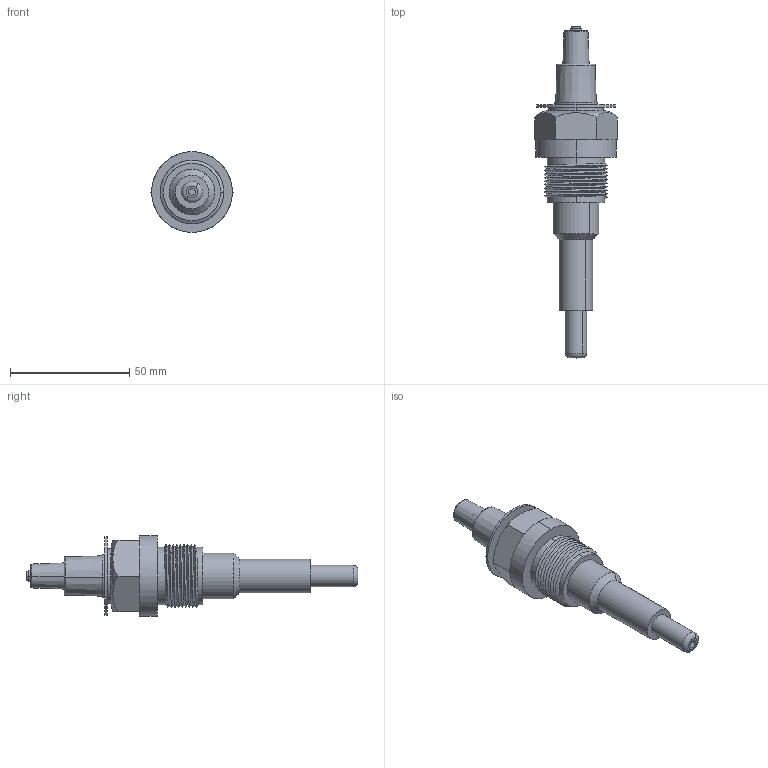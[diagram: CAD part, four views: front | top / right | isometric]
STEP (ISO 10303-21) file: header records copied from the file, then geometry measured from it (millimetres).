
FILE_DESCRIPTION (( 'STEP AP214' ), '1' );
FILE_NAME ('3D 斁麧錪 麵.2.STEP', '2017-09-21T06:48:26', ( '' ), ( '' ), 'SwSTEP 2.0', 'SolidWorks 2011', '' );
FILE_SCHEMA (( 'AUTOMOTIVE_DESIGN' ));
Length unit declared in the file: millimetre
Products named in the file (7): 懾譈鴀_懤瀖麵.2_00; Èçîëÿòîð âåðõíèé_00; 扻錝僝樏_麵.2_00; 3D 斁麧錪 麵.2; Èçîëÿòîð íèæíèé_00; plain washer 6903 type ab_din_DIN 6903-A4; hex thin nut chamfered gradeab_din_Hexagon Thin Nut ISO 4035 - M4 - N
Assembly tree (9 placements, depth 2):
  3D 斁麧錪 麵.2
    懾譈鴀_懤瀖麵.2_00
    Èçîëÿòîð íèæíèé_00
    Èçîëÿòîð âåðõíèé_00
    hex thin nut chamfered gradeab_din_Hexagon Thin Nut ISO 4035 - M4 - N  x2
    plain washer 6903 type ab_din_DIN 6903-A4  x3
    扻錝僝樏_麵.2_00
Bounding box: 34.64 x 139 x 33.8 mm (x, y, z)
Volume: 40433.5 mm3; surface area: 18259.6 mm2
Topology: 10 solids, 10 shells, 181 faces, 371 edges, 226 vertices
Faces by surface type: plane 66, cylinder 60, cone 42, torus 8, bspline 5
Entity records: 5926 total; most frequent: CARTESIAN_POINT 2267, DIRECTION 702, ORIENTED_EDGE 574, AXIS2_PLACEMENT_3D 302, EDGE_CURVE 287, VERTEX_POINT 176, EDGE_LOOP 163, CIRCLE 154
